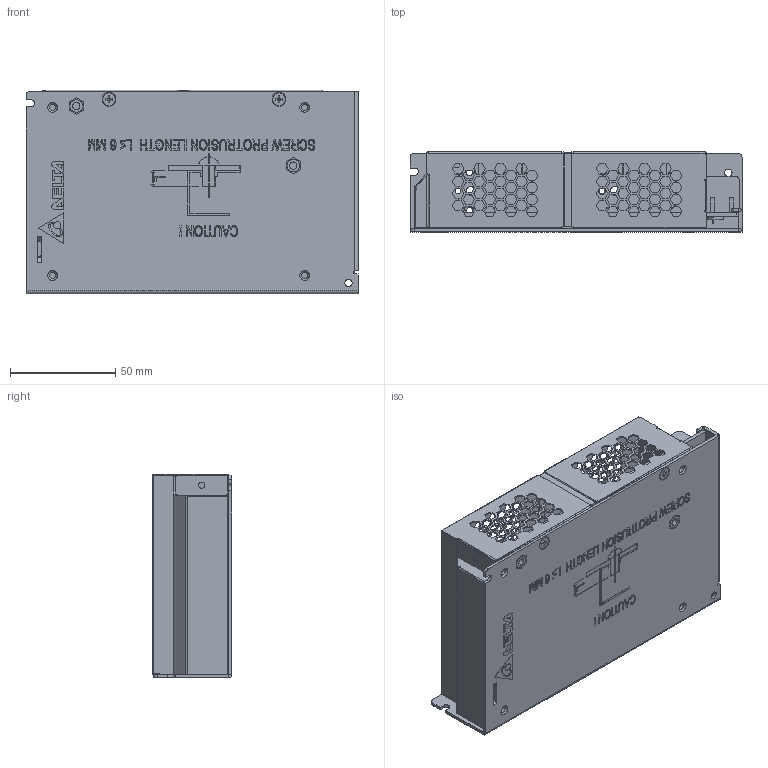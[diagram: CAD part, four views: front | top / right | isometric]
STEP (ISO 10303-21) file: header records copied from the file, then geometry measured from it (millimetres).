
FILE_DESCRIPTION((''),'2;1');
FILE_NAME('PMH-24V100WCCU_ASM_ASM','2018-05-28T',('warud'),(''),'PRO/ENGINEER BY PARAMETRIC TECHNOLOGY CORPORATION, 2010180','PRO/ENGINEER BY PARAMETRIC TECHNOLOGY CORPORATION, 2010180','');
FILE_SCHEMA(('CONFIG_CONTROL_DESIGN','SHAPE_APPEARANCE_LAYERS_GROUPS'));
Products named in the file (13): PWB_MAIN_1; EE_VR550_2_1; EE_LED350_1_1; 3123303900_LED_HOLDER_3_1; 307049867W_1; ASSY_PWB_PMH-24V100WCCU_ASM_ASM; 3105318100_8_1; 330DTXXXXX_CHASSIS_35_1; 330304670103_A_STUD_4_1; 330323340101_ASM_13_ASM_1_ASM_ASM; 330300560101_21_1; 3262038604_4_1; PMH-24V100WCCU_ASM_ASM
Assembly tree (16 placements, depth 3):
  PMH-24V100WCCU_ASM_ASM
    ASSY_PWB_PMH-24V100WCCU_ASM_ASM
      PWB_MAIN_1
      EE_VR550_2_1
      EE_LED350_1_1
      3123303900_LED_HOLDER_3_1
      307049867W_1
    3105318100_8_1  x4
    330323340101_ASM_13_ASM_1_ASM_ASM
      330DTXXXXX_CHASSIS_35_1
      330304670103_A_STUD_4_1  x2
    330300560101_21_1
    3262038604_4_1
Bounding box: 158 x 38.07 x 97 mm (x, y, z)
Volume: 79877.5 mm3; surface area: 126692.1 mm2
Topology: 14 solids, 14 shells, 5257 faces, 14754 edges, 9339 vertices
Faces by surface type: plane 3895, cylinder 551, extrusion 369, bspline 344, cone 82, torus 14, sphere 2
Entity records: 176216 total; most frequent: CARTESIAN_POINT 39828, ORIENTED_EDGE 28464, DIRECTION 23535, EDGE_CURVE 14232, VECTOR 12361, LINE 11992, VERTEX_POINT 9058, EDGE_LOOP 5603
